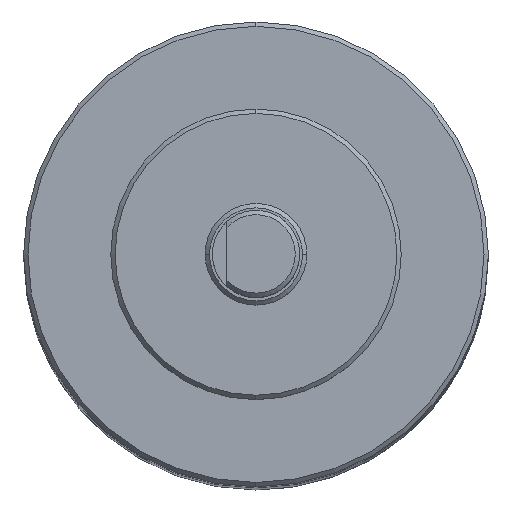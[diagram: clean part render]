
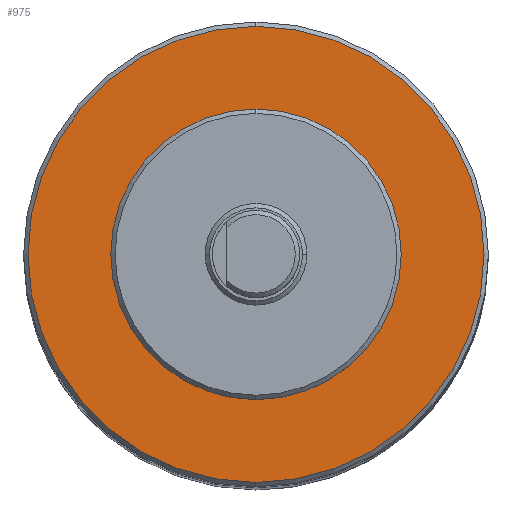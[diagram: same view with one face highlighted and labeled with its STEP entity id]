
A CAD part, top view. The second image highlights one B-rep face of the part: STEP entity #975.
In plain terms, the highlighted planar face has unit normal (0, 0, 1).
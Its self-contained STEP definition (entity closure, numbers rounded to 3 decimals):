
#40 = CARTESIAN_POINT ( 'NONE',  ( 0., 0., 125.9 ) ) ;
#114 = CIRCLE ( 'NONE', #1304, 15.7 ) ;
#148 = EDGE_CURVE ( 'NONE', #1638, #585, #114, .T. ) ;
#186 = DIRECTION ( 'NONE',  ( 0., 0., 1. ) ) ;
#202 = FACE_BOUND ( 'NONE', #1538, .T. ) ;
#211 = FACE_OUTER_BOUND ( 'NONE', #447, .T. ) ;
#318 = CARTESIAN_POINT ( 'NONE',  ( 0., 15.7, 125.9 ) ) ;
#349 = DIRECTION ( 'NONE',  ( -1., 0., 0. ) ) ;
#356 = PLANE ( 'NONE',  #956 ) ;
#425 = CIRCLE ( 'NONE', #1427, 10. ) ;
#447 = EDGE_LOOP ( 'NONE', ( #1042, #755 ) ) ;
#452 = EDGE_CURVE ( 'NONE', #585, #1638, #1657, .T. ) ;
#585 = VERTEX_POINT ( 'NONE', #318 ) ;
#587 = DIRECTION ( 'NONE',  ( -1., 0., 0. ) ) ;
#609 = DIRECTION ( 'NONE',  ( 0., 1., 0. ) ) ;
#663 = DIRECTION ( 'NONE',  ( 0., 0., -1. ) ) ;
#702 = CARTESIAN_POINT ( 'NONE',  ( 0., 0., 125.9 ) ) ;
#711 = CARTESIAN_POINT ( 'NONE',  ( 0., 0., 125.9 ) ) ;
#755 = ORIENTED_EDGE ( 'NONE', *, *, #148, .F. ) ;
#776 = CARTESIAN_POINT ( 'NONE',  ( 0., -15.7, 125.9 ) ) ;
#786 = CARTESIAN_POINT ( 'NONE',  ( -10., 0., 125.9 ) ) ;
#839 = DIRECTION ( 'NONE',  ( 0., 0., -1. ) ) ;
#853 = AXIS2_PLACEMENT_3D ( 'NONE', #40, #663, #1430 ) ;
#857 = DIRECTION ( 'NONE',  ( 0., 0., -1. ) ) ;
#915 = AXIS2_PLACEMENT_3D ( 'NONE', #1505, #186, #349 ) ;
#956 = AXIS2_PLACEMENT_3D ( 'NONE', #711, #857, #1605 ) ;
#975 = ADVANCED_FACE ( 'NONE', ( #202, #211 ), #356, .F. ) ;
#1042 = ORIENTED_EDGE ( 'NONE', *, *, #452, .F. ) ;
#1174 = VERTEX_POINT ( 'NONE', #1380 ) ;
#1244 = CIRCLE ( 'NONE', #915, 10. ) ;
#1246 = CARTESIAN_POINT ( 'NONE',  ( 0., 0., 125.9 ) ) ;
#1304 = AXIS2_PLACEMENT_3D ( 'NONE', #702, #839, #609 ) ;
#1380 = CARTESIAN_POINT ( 'NONE',  ( 10., 0., 125.9 ) ) ;
#1419 = VERTEX_POINT ( 'NONE', #786 ) ;
#1425 = ORIENTED_EDGE ( 'NONE', *, *, #1548, .F. ) ;
#1427 = AXIS2_PLACEMENT_3D ( 'NONE', #1246, #1497, #587 ) ;
#1430 = DIRECTION ( 'NONE',  ( 0., 1., 0. ) ) ;
#1472 = EDGE_CURVE ( 'NONE', #1174, #1419, #425, .T. ) ;
#1497 = DIRECTION ( 'NONE',  ( 0., 0., 1. ) ) ;
#1505 = CARTESIAN_POINT ( 'NONE',  ( 0., 0., 125.9 ) ) ;
#1538 = EDGE_LOOP ( 'NONE', ( #1425, #1549 ) ) ;
#1548 = EDGE_CURVE ( 'NONE', #1419, #1174, #1244, .T. ) ;
#1549 = ORIENTED_EDGE ( 'NONE', *, *, #1472, .F. ) ;
#1605 = DIRECTION ( 'NONE',  ( -1., 0., 0. ) ) ;
#1638 = VERTEX_POINT ( 'NONE', #776 ) ;
#1657 = CIRCLE ( 'NONE', #853, 15.7 ) ;
